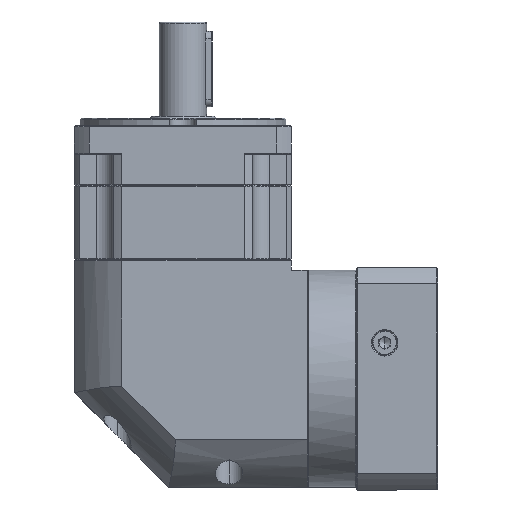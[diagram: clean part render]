
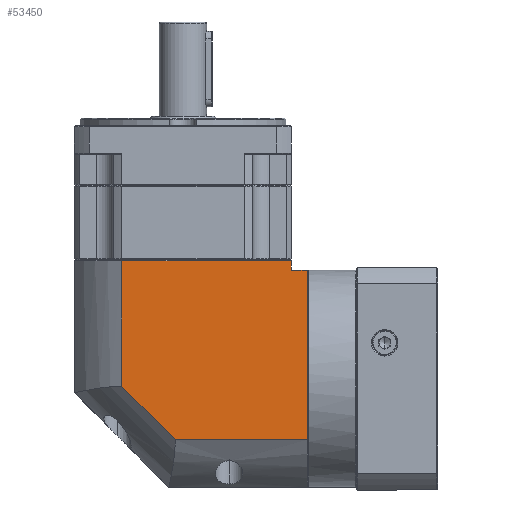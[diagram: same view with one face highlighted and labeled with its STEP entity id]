
A CAD part, left-side view. The second image highlights one B-rep face of the part: STEP entity #53450.
In plain terms, the highlighted planar face has unit normal (-1, 0, 0).
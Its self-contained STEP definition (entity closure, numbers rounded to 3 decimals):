
#1038 = CARTESIAN_POINT ( 'NONE',  ( -232.004, -67.467, 122.551 ) ) ;
#9044 = CARTESIAN_POINT ( 'NONE',  ( -232.004, 22.433, 134.051 ) ) ;
#9989 = EDGE_CURVE ( 'NONE', #76084, #40687, #22158, .T. ) ;
#10342 = VERTEX_POINT ( 'NONE', #77219 ) ;
#12158 = DIRECTION ( 'NONE',  ( 0., -1., 0. ) ) ;
#17493 = VECTOR ( 'NONE', #96083, 1000. ) ;
#19734 = LINE ( 'NONE', #133077, #55500 ) ;
#22158 = LINE ( 'NONE', #38643, #57876 ) ;
#27162 = VERTEX_POINT ( 'NONE', #36219 ) ;
#27267 = CARTESIAN_POINT ( 'NONE',  ( -232.004, -5.905, 32.651 ) ) ;
#28408 = VERTEX_POINT ( 'NONE', #98525 ) ;
#36219 = CARTESIAN_POINT ( 'NONE',  ( -232.004, -5.905, 32.651 ) ) ;
#37255 = CARTESIAN_POINT ( 'NONE',  ( -232.004, -67.467, 7.551 ) ) ;
#38643 = CARTESIAN_POINT ( 'NONE',  ( -232.004, -75.867, 134.051 ) ) ;
#40687 = VERTEX_POINT ( 'NONE', #50377 ) ;
#47504 = EDGE_CURVE ( 'NONE', #10342, #170060, #19734, .T. ) ;
#49082 = EDGE_CURVE ( 'NONE', #76084, #134670, #53292, .T. ) ;
#50377 = CARTESIAN_POINT ( 'NONE',  ( -232.004, -75.867, 32.651 ) ) ;
#51295 = DIRECTION ( 'NONE',  ( 0., 0., 1. ) ) ;
#51760 = EDGE_CURVE ( 'NONE', #28408, #10342, #116205, .T. ) ;
#53292 = LINE ( 'NONE', #1038, #17493 ) ;
#53450 = ADVANCED_FACE ( 'NONE', ( #87810 ), #66463, .F. ) ;
#53544 = DIRECTION ( 'NONE',  ( 1., 0., 0. ) ) ;
#53689 = ORIENTED_EDGE ( 'NONE', *, *, #127253, .F. ) ;
#55500 = VECTOR ( 'NONE', #12158, 1000. ) ;
#57876 = VECTOR ( 'NONE', #119029, 1000. ) ;
#59892 = EDGE_CURVE ( 'NONE', #134670, #170060, #153078, .T. ) ;
#62445 = DIRECTION ( 'NONE',  ( 0., 0., 1. ) ) ;
#66463 = PLANE ( 'NONE',  #81282 ) ;
#71518 = ORIENTED_EDGE ( 'NONE', *, *, #59892, .T. ) ;
#76084 = VERTEX_POINT ( 'NONE', #96272 ) ;
#77219 = CARTESIAN_POINT ( 'NONE',  ( -232.004, 22.433, 127.551 ) ) ;
#81282 = AXIS2_PLACEMENT_3D ( 'NONE', #133941, #53544, #147392 ) ;
#81863 = VECTOR ( 'NONE', #51295, 1000. ) ;
#87810 = FACE_OUTER_BOUND ( 'NONE', #107608, .T. ) ;
#89779 = CARTESIAN_POINT ( 'NONE',  ( -232.004, -67.467, 127.551 ) ) ;
#89956 = LINE ( 'NONE', #27267, #161234 ) ;
#94686 = LINE ( 'NONE', #160136, #126097 ) ;
#96083 = DIRECTION ( 'NONE',  ( 0., 1., 0. ) ) ;
#96272 = CARTESIAN_POINT ( 'NONE',  ( -232.004, -75.867, 122.551 ) ) ;
#98525 = CARTESIAN_POINT ( 'NONE',  ( -232.004, 22.433, 60.989 ) ) ;
#107608 = EDGE_LOOP ( 'NONE', ( #115524, #126736, #53689, #162170, #110230, #71518, #157268 ) ) ;
#110230 = ORIENTED_EDGE ( 'NONE', *, *, #49082, .T. ) ;
#111004 = EDGE_CURVE ( 'NONE', #27162, #28408, #89956, .T. ) ;
#115524 = ORIENTED_EDGE ( 'NONE', *, *, #51760, .F. ) ;
#116205 = LINE ( 'NONE', #9044, #120456 ) ;
#119029 = DIRECTION ( 'NONE',  ( 0., 0., -1. ) ) ;
#120456 = VECTOR ( 'NONE', #62445, 1000. ) ;
#121153 = DIRECTION ( 'NONE',  ( 0., 0.707, 0.707 ) ) ;
#126097 = VECTOR ( 'NONE', #173595, 1000. ) ;
#126736 = ORIENTED_EDGE ( 'NONE', *, *, #111004, .F. ) ;
#127253 = EDGE_CURVE ( 'NONE', #40687, #27162, #94686, .T. ) ;
#133077 = CARTESIAN_POINT ( 'NONE',  ( -232.004, 47.533, 127.551 ) ) ;
#133941 = CARTESIAN_POINT ( 'NONE',  ( -232.004, 47.533, 134.051 ) ) ;
#134670 = VERTEX_POINT ( 'NONE', #160888 ) ;
#147392 = DIRECTION ( 'NONE',  ( 0., 1., 0. ) ) ;
#153078 = LINE ( 'NONE', #37255, #81863 ) ;
#157268 = ORIENTED_EDGE ( 'NONE', *, *, #47504, .F. ) ;
#160136 = CARTESIAN_POINT ( 'NONE',  ( -232.004, 47.533, 32.651 ) ) ;
#160888 = CARTESIAN_POINT ( 'NONE',  ( -232.004, -67.467, 122.551 ) ) ;
#161234 = VECTOR ( 'NONE', #121153, 1000. ) ;
#162170 = ORIENTED_EDGE ( 'NONE', *, *, #9989, .F. ) ;
#170060 = VERTEX_POINT ( 'NONE', #89779 ) ;
#173595 = DIRECTION ( 'NONE',  ( 0., 1., 0. ) ) ;
